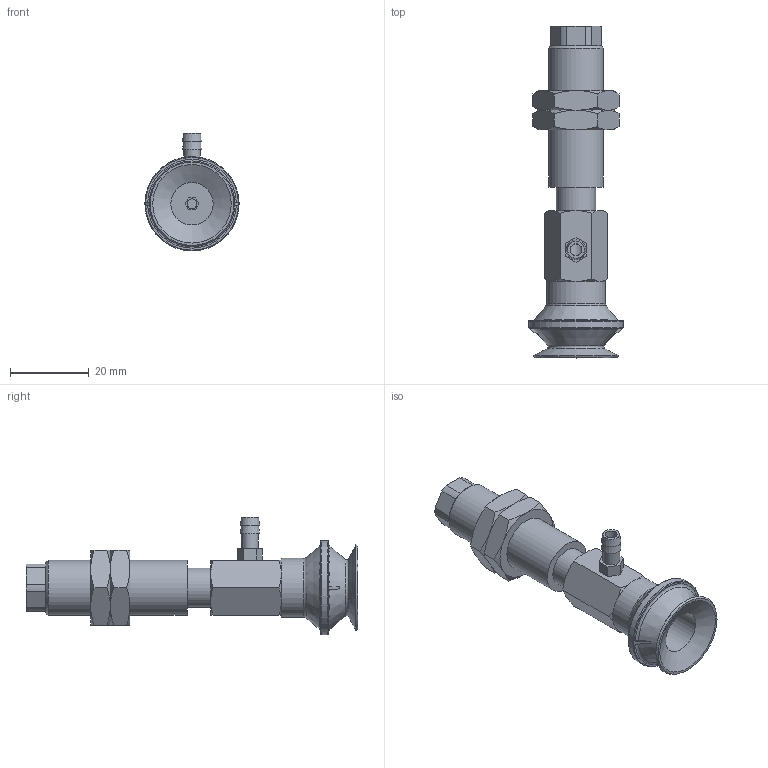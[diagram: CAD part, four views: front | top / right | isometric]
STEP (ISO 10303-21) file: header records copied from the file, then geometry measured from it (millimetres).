
FILE_DESCRIPTION(('STEP AP203'),'1');
FILE_NAME('-T.stp','2025-04-02T00:29:01',(' '),(' '),'Spatial InterOp 3D',' ',' ');
FILE_SCHEMA(('CONFIG_CONTROL_DESIGN'));
Length unit declared in the file: millimetre
Products named in the file (8): BNABPBYS-20-6-※-T; Adapter20-T-NAPB; CONNECTOR-20-6-PB; Nut-20-S-PB; NAPBTS-20-6--F; NAPBTS-20-6--M; BPBG-20-※; T
Assembly tree (8 placements, depth 2):
  BNABPBYS-20-6-※-T
    Adapter20-T-NAPB
    CONNECTOR-20-6-PB
    Nut-20-S-PB  x2
    NAPBTS-20-6--F
    NAPBTS-20-6--M
    BPBG-20-※
    T
Bounding box: 24 x 84.5 x 30 mm (x, y, z)
Volume: 14603.4 mm3; surface area: 11558.3 mm2
Topology: 8 solids, 8 shells, 173 faces, 375 edges, 231 vertices
Faces by surface type: plane 79, cone 59, cylinder 26, torus 9
Full cylindrical faces by diameter (mm): 2.5 x1, 3 x2, 4.134 x3, 4.3 x1, 4.6 x1, 5 x3, 10 x2, 10.8 x1, 11 x1, 12.917 x2, 14 x1, 15 x1, 24 x1
Entity records: 4466 total; most frequent: CARTESIAN_POINT 993, DIRECTION 658, ORIENTED_EDGE 548, AXIS2_PLACEMENT_3D 277, EDGE_CURVE 274, EDGE_LOOP 220, VERTEX_POINT 194, FACE_OUTER_BOUND 176
